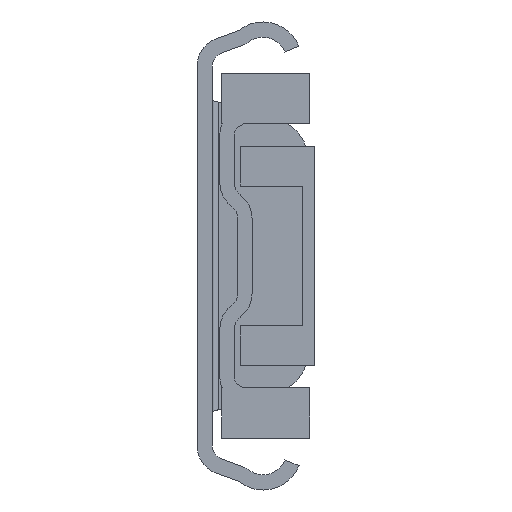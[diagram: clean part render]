
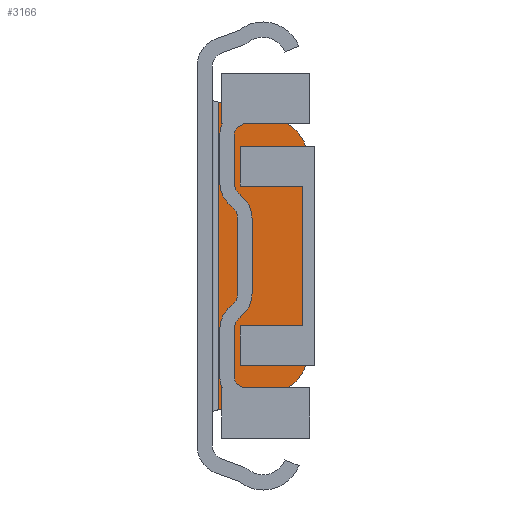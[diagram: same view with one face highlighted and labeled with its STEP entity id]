
A CAD part, front view. The second image highlights one B-rep face of the part: STEP entity #3166.
In plain terms, the highlighted planar face has unit normal (0, -1, 0).
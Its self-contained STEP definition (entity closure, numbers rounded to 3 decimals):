
#65=PLANE('',#3743);
#164=CIRCLE('',#3744,8.);
#165=CIRCLE('',#3745,8.);
#494=ORIENTED_EDGE('',*,*,#1325,.F.);
#495=ORIENTED_EDGE('',*,*,#1326,.F.);
#496=ORIENTED_EDGE('',*,*,#1327,.F.);
#497=ORIENTED_EDGE('',*,*,#1328,.F.);
#498=ORIENTED_EDGE('',*,*,#1329,.F.);
#499=ORIENTED_EDGE('',*,*,#1330,.F.);
#1325=EDGE_CURVE('',#1760,#1761,#2079,.T.);
#1326=EDGE_CURVE('',#1762,#1760,#164,.F.);
#1327=EDGE_CURVE('',#1763,#1762,#2080,.T.);
#1328=EDGE_CURVE('',#1764,#1763,#165,.F.);
#1329=EDGE_CURVE('',#1765,#1764,#2081,.T.);
#1330=EDGE_CURVE('',#1761,#1765,#2082,.T.);
#1760=VERTEX_POINT('',#5155);
#1761=VERTEX_POINT('',#5156);
#1762=VERTEX_POINT('',#5158);
#1763=VERTEX_POINT('',#5160);
#1764=VERTEX_POINT('',#5162);
#1765=VERTEX_POINT('',#5164);
#2079=LINE('',#5154,#2409);
#2080=LINE('',#5159,#2410);
#2081=LINE('',#5163,#2411);
#2082=LINE('',#5165,#2412);
#2409=VECTOR('',#4210,1000.);
#2410=VECTOR('',#4213,1000.);
#2411=VECTOR('',#4216,1000.);
#2412=VECTOR('',#4217,1000.);
#2718=EDGE_LOOP('',(#494,#495,#496,#497,#498,#499));
#2918=FACE_BOUND('',#2718,.T.);
#3166=ADVANCED_FACE('',(#2918),#65,.T.);
#3743=AXIS2_PLACEMENT_3D('',#5153,#4208,#4209);
#3744=AXIS2_PLACEMENT_3D('',#5157,#4211,#4212);
#3745=AXIS2_PLACEMENT_3D('',#5161,#4214,#4215);
#4208=DIRECTION('',(0.,-1.,0.));
#4209=DIRECTION('',(0.,0.,-1.));
#4210=DIRECTION('',(-0.966,0.,-0.259));
#4211=DIRECTION('',(0.,-1.,0.));
#4212=DIRECTION('',(0.,0.,-1.));
#4213=DIRECTION('',(0.,0.,-1.));
#4214=DIRECTION('',(0.,-1.,0.));
#4215=DIRECTION('',(0.,0.,-1.));
#4216=DIRECTION('',(0.966,0.,-0.259));
#4217=DIRECTION('',(0.,0.,1.));
#5153=CARTESIAN_POINT('',(12.9,353.1,14.965));
#5154=CARTESIAN_POINT('',(22.316,353.1,-20.174));
#5155=CARTESIAN_POINT('',(12.471,353.1,-22.812));
#5156=CARTESIAN_POINT('',(3.5,353.1,-25.216));
#5157=CARTESIAN_POINT('',(10.4,353.1,-15.085));
#5158=CARTESIAN_POINT('',(18.4,353.1,-15.085));
#5159=CARTESIAN_POINT('',(18.4,353.1,14.965));
#5160=CARTESIAN_POINT('',(18.4,353.1,15.085));
#5161=CARTESIAN_POINT('',(10.4,353.1,15.085));
#5162=CARTESIAN_POINT('',(12.471,353.1,22.812));
#5163=CARTESIAN_POINT('',(14.833,353.1,22.179));
#5164=CARTESIAN_POINT('',(3.5,353.1,25.216));
#5165=CARTESIAN_POINT('',(3.5,353.1,-25.766));
